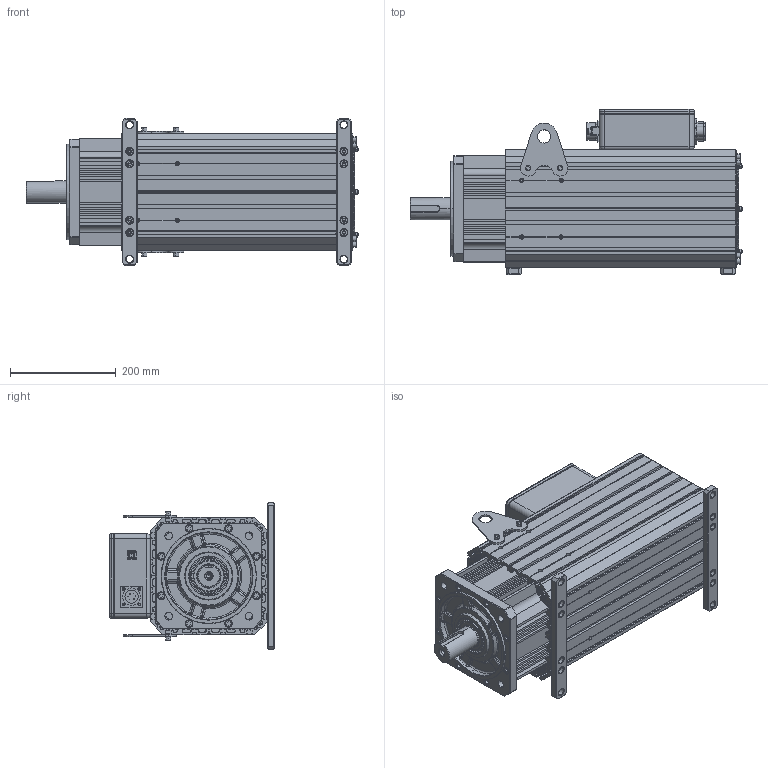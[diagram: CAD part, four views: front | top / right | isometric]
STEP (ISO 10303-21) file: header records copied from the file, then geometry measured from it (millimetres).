
FILE_DESCRIPTION (( 'STEP AP203' ), '1' );
FILE_NAME ('MS6G-200TH17BZ2-417P0-FÍâÐÎ³ß´çÍ¼.STEP', '2024-08-05T05:08:42', ( '' ), ( '' ), 'SwSTEP 2.0', 'SolidWorks 2022', '' );
FILE_SCHEMA (( 'CONFIG_CONTROL_DESIGN' ));
Products named in the file (1): MS6G-200TH17BZ2-417P0-F俋倛喜渡芞
Bounding box: 627.7 x 311.7 x 278 mm (x, y, z)
Volume: 17387556.8 mm3; surface area: 2741072.3 mm2
Topology: 80 solids, 85 shells, 5542 faces, 14912 edges, 9483 vertices
Faces by surface type: plane 3775, cylinder 936, cone 400, torus 330, bspline 75, sphere 26
Entity records: 179265 total; most frequent: CARTESIAN_POINT 42202, ORIENTED_EDGE 29708, DIRECTION 26872, EDGE_CURVE 14854, VECTOR 10946, LINE 10946, VERTEX_POINT 9483, AXIS2_PLACEMENT_3D 7963
